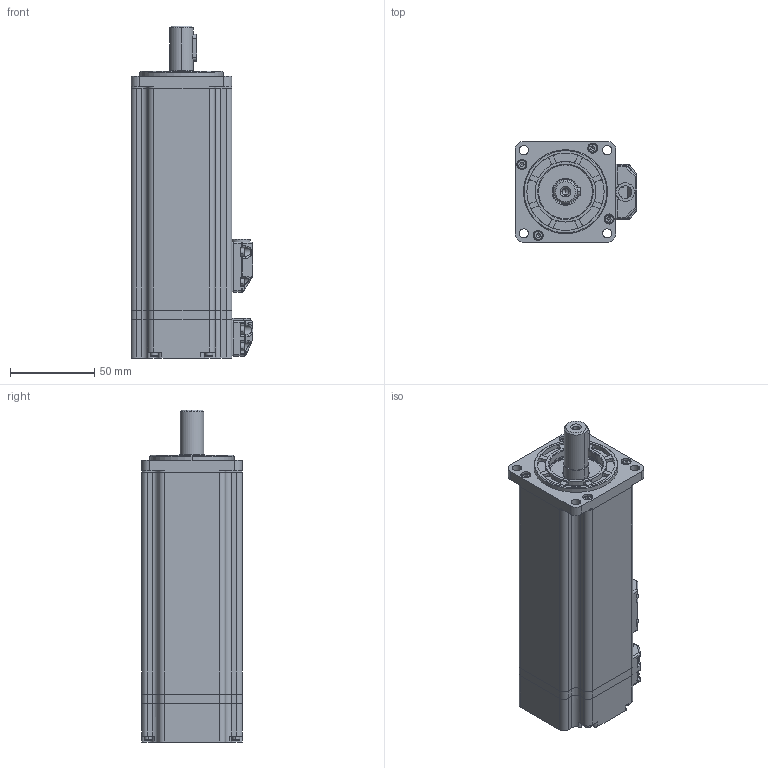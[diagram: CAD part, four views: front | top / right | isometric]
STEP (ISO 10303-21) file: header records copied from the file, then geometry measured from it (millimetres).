
FILE_DESCRIPTION (( 'STEP AP203' ), '1' );
FILE_NAME ('淕儂蚾饜.STEP', '2021-08-24T02:22:28', ( 'kinavo-3851' ), ( '' ), 'SwSTEP 2.0', 'SolidWorks 2018', '' );
FILE_SCHEMA (( 'CONFIG_CONTROL_DESIGN' ));
Length unit declared in the file: millimetre
Products named in the file (1): 淕儂蚾饜
Bounding box: 72.5 x 60 x 197.5 mm (x, y, z)
Volume: 202354.7 mm3; surface area: 126802.8 mm2
Topology: 30 solids, 30 shells, 1603 faces, 4276 edges, 2674 vertices
Faces by surface type: cylinder 669, plane 596, cone 150, torus 94, sphere 70, bspline 24
Entity records: 52897 total; most frequent: CARTESIAN_POINT 13030, DIRECTION 8694, ORIENTED_EDGE 8192, EDGE_CURVE 4096, AXIS2_PLACEMENT_3D 3390, VERTEX_POINT 2610, VECTOR 1914, LINE 1914
